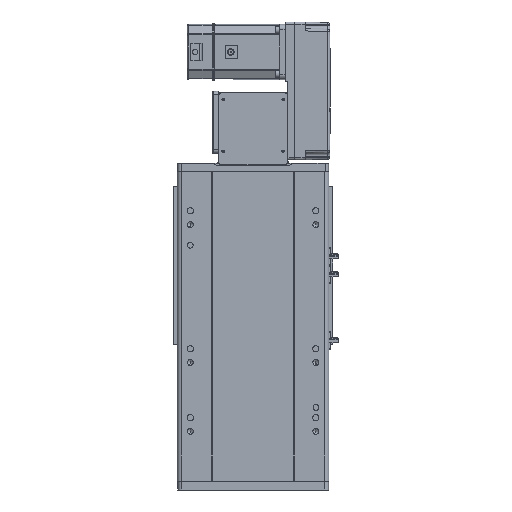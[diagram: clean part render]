
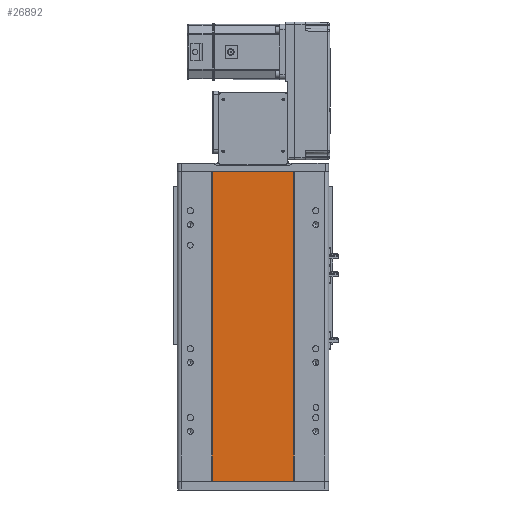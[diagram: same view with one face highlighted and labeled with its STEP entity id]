
A CAD part, front view. The second image highlights one B-rep face of the part: STEP entity #26892.
In plain terms, the highlighted planar face has unit normal (0, -1, 0).
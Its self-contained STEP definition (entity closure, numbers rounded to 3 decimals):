
#877 = VERTEX_POINT ( 'NONE', #16575 ) ;
#3345 = EDGE_CURVE ( 'NONE', #11749, #20138, #43365, .T. ) ;
#5954 = PLANE ( 'NONE',  #13124 ) ;
#7659 = LINE ( 'NONE', #43038, #16720 ) ;
#9829 = DIRECTION ( 'NONE',  ( -1., 0., 0. ) ) ;
#11749 = VERTEX_POINT ( 'NONE', #34628 ) ;
#13061 = ORIENTED_EDGE ( 'NONE', *, *, #45913, .T. ) ;
#13124 = AXIS2_PLACEMENT_3D ( 'NONE', #25688, #14095, #9829 ) ;
#14095 = DIRECTION ( 'NONE',  ( 0., 1., 0. ) ) ;
#16516 = FACE_OUTER_BOUND ( 'NONE', #28783, .T. ) ;
#16575 = CARTESIAN_POINT ( 'NONE',  ( -59., 1., -224.5 ) ) ;
#16720 = VECTOR ( 'NONE', #27564, 1000. ) ;
#19786 = VECTOR ( 'NONE', #39156, 1000. ) ;
#20138 = VERTEX_POINT ( 'NONE', #29877 ) ;
#20217 = ORIENTED_EDGE ( 'NONE', *, *, #3345, .F. ) ;
#21894 = DIRECTION ( 'NONE',  ( 1., 0., 0. ) ) ;
#22211 = LINE ( 'NONE', #35912, #19786 ) ;
#25688 = CARTESIAN_POINT ( 'NONE',  ( -59., 1., 224.5 ) ) ;
#26892 = ADVANCED_FACE ( 'NONE', ( #16516 ), #5954, .F. ) ;
#27564 = DIRECTION ( 'NONE',  ( 1., 0., 0. ) ) ;
#28783 = EDGE_LOOP ( 'NONE', ( #42715, #32428, #20217, #13061 ) ) ;
#29877 = CARTESIAN_POINT ( 'NONE',  ( 59., 1., 224.5 ) ) ;
#30858 = VECTOR ( 'NONE', #46372, 1000. ) ;
#31076 = CARTESIAN_POINT ( 'NONE',  ( 59., 1., -224.5 ) ) ;
#31909 = VECTOR ( 'NONE', #21894, 1000. ) ;
#32428 = ORIENTED_EDGE ( 'NONE', *, *, #41325, .F. ) ;
#34266 = VERTEX_POINT ( 'NONE', #31076 ) ;
#34628 = CARTESIAN_POINT ( 'NONE',  ( -59., 1., 224.5 ) ) ;
#34944 = CARTESIAN_POINT ( 'NONE',  ( 59., 1., 224.5 ) ) ;
#35912 = CARTESIAN_POINT ( 'NONE',  ( -59., 1., 224.5 ) ) ;
#38283 = EDGE_CURVE ( 'NONE', #877, #34266, #7659, .T. ) ;
#39156 = DIRECTION ( 'NONE',  ( 0., 0., -1. ) ) ;
#40423 = CARTESIAN_POINT ( 'NONE',  ( -59., 1., 224.5 ) ) ;
#41325 = EDGE_CURVE ( 'NONE', #20138, #34266, #48356, .T. ) ;
#42715 = ORIENTED_EDGE ( 'NONE', *, *, #38283, .T. ) ;
#43038 = CARTESIAN_POINT ( 'NONE',  ( -59., 1., -224.5 ) ) ;
#43365 = LINE ( 'NONE', #40423, #31909 ) ;
#45913 = EDGE_CURVE ( 'NONE', #11749, #877, #22211, .T. ) ;
#46372 = DIRECTION ( 'NONE',  ( 0., 0., -1. ) ) ;
#48356 = LINE ( 'NONE', #34944, #30858 ) ;
